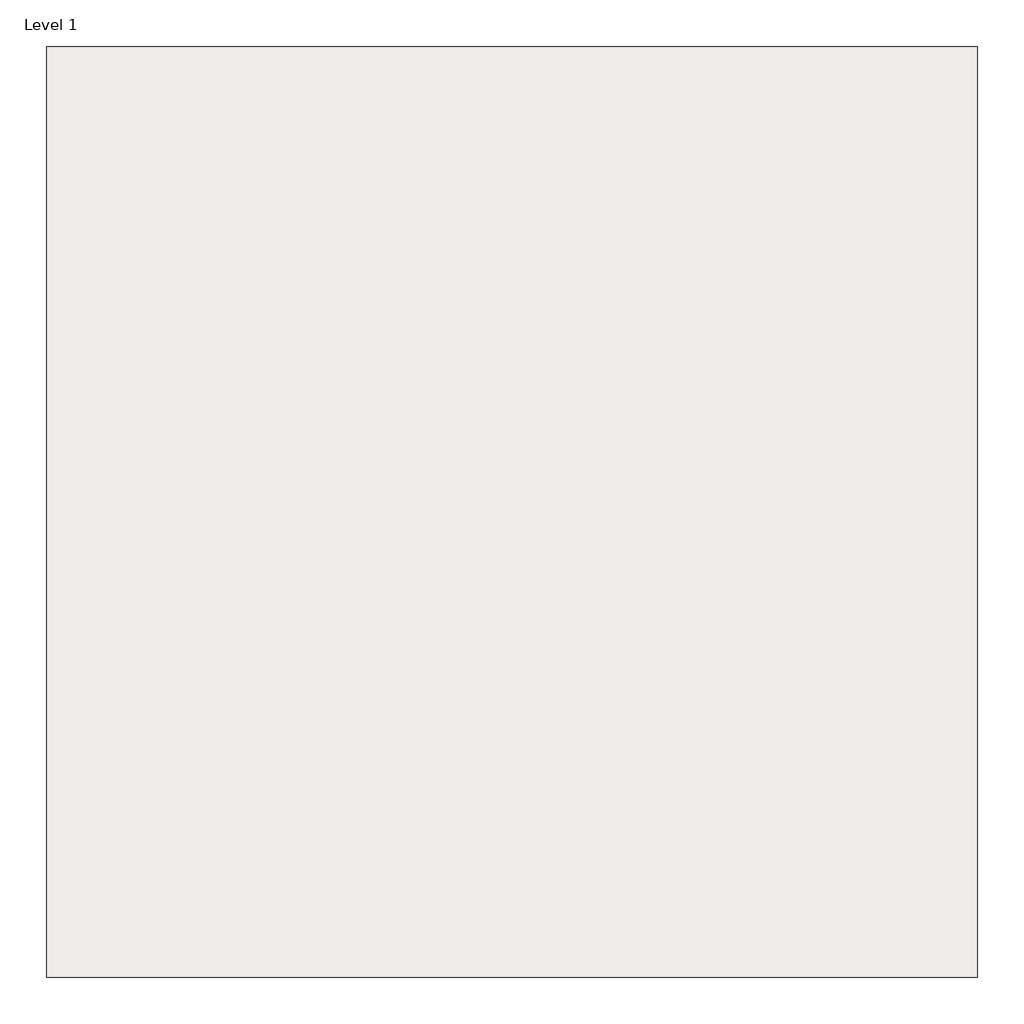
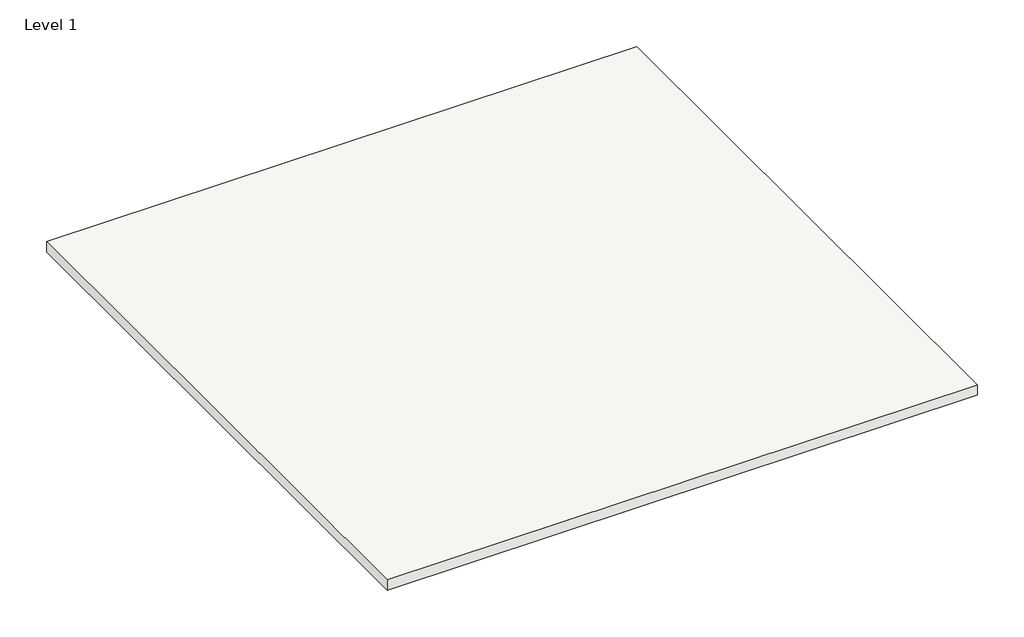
# One storey: 1 slab.
"""IFC4 building model written with IfcOpenShell, lengths in millimetres."""

from ifc_helpers import new_model, si_unit, frame, origin, place, context, project, spatial, polyline, outline, extrude, element, save

model = new_model("IFC4")

# Units and contexts
model_context = context("Model", 3, world=origin())
ifc_project = project(units=[si_unit("LENGTHUNIT", "METRE", prefix="MILLI")], contexts=[model_context])

# Site, building, storey
site = spatial("IfcSite", under=ifc_project)
building = spatial("IfcBuilding", under=site)
storey = spatial("IfcBuildingStorey", under=building, Name="Level 1", Elevation=4000.0)

# Slab
placement = place(None, origin())
element("IfcSlab", 1, ObjectType="NBS_IKOPLC_ReinforcedBitumenMembraneWarmRoofCoveringSystems_IKOUltraPeventRoofingSystems", at=placement, inside=storey, context=model_context, shape_type="SweptSolid", body=[
    extrude(outline(polyline([(0.0, -3700.0), (2500.0, -3700.0), (2500.0, -6200.0), (0.0, -6200.0), (0.0, -3700.0)])), frame((0.0, 0.0, 4000.0), z_axis=(0.0, 0.0, 1.0), x_axis=(1.0, 0.0, 0.0)), (0.0, 0.0, 1.0), 46.4),
])

save(model, "model.ifc")
